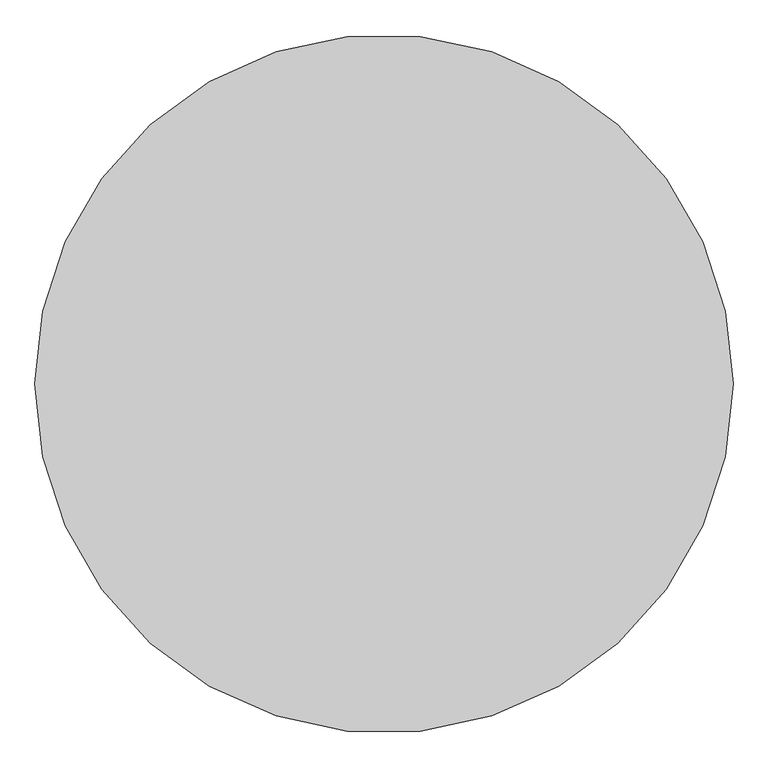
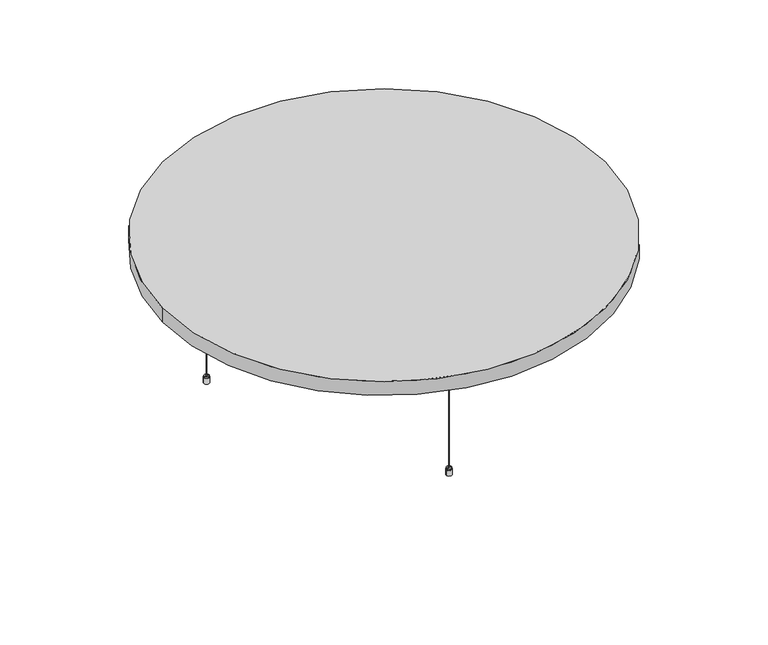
"""IFC4 building model written with IfcOpenShell, lengths in millimetres: proxy geometry, OWA Selecta : Selecta loop 1200."""

from ifc_helpers import new_model, si_unit, point, frame, frame_2d, origin, place, context, project, spatial, polyline, circle_curve, trimmed, segment, composite_curve, outline, extrude, source, transform, mapped, element, save
from ifc_brep_helpers import plane_surface, cylinder_surface, revolved_surface, advanced_brep


def specialty_equipment_8f9aa0d5(model_context):
    return source(origin(), model_context, "Body", "SolidModel", [
        advanced_brep(
        [(-433.5, -305.0, 0.0), (-441.2406175, -305.0, 0.0), (-425.7593825, -305.0, 0.0), (-441.2406175, -305.0, 15.0), (-425.7593825, -305.0, 15.0), (-440.3156175, -305.0, 15.0), (-426.6843825, -305.0, 15.0), (-440.3156175, -305.0, 19.0), (-426.6843825, -305.0, 19.0), (-435.5656175, -305.0, 19.0), (-431.4343825, -305.0, 19.0), (-435.5656175, -305.0, 22.546183), (-431.4343825, -305.0, 22.546183), (-433.5, -305.0, 22.546183)],
        [
            (0, 1),
            (1, 2, circle_curve(frame((-433.5, -305.0, 0.0), z_axis=(0.0, 0.0, -1.0), x_axis=(-1.0, 0.0, 0.0)), 7.7406175)),
            (2, 0),
            (2, 1, circle_curve(frame((-433.5, -305.0, 0.0), z_axis=(0.0, 0.0, -1.0), x_axis=(-1.0, 0.0, 0.0)), 7.7406175)),
            (1, 3),
            (3, 4, circle_curve(frame((-433.5, -305.0, 15.0), z_axis=(0.0, 0.0, -1.0), x_axis=(-1.0, 0.0, 0.0)), 7.7406175)),
            (4, 2),
            (4, 3, circle_curve(frame((-433.5, -305.0, 15.0), z_axis=(0.0, 0.0, -1.0), x_axis=(-1.0, 0.0, 0.0)), 7.7406175)),
            (3, 5),
            (5, 6, circle_curve(frame((-433.5, -305.0, 15.0), z_axis=(0.0, 0.0, -1.0), x_axis=(-1.0, 0.0, 0.0)), 6.8156175)),
            (6, 4),
            (6, 5, circle_curve(frame((-433.5, -305.0, 15.0), z_axis=(0.0, 0.0, -1.0), x_axis=(-1.0, 0.0, 0.0)), 6.8156175)),
            (5, 7),
            (7, 8, circle_curve(frame((-433.5, -305.0, 19.0), z_axis=(0.0, 0.0, -1.0), x_axis=(-1.0, 0.0, 0.0)), 6.8156175)),
            (8, 6),
            (8, 7, circle_curve(frame((-433.5, -305.0, 19.0), z_axis=(0.0, 0.0, -1.0), x_axis=(-1.0, 0.0, 0.0)), 6.8156175)),
            (7, 9),
            (9, 10, circle_curve(frame((-433.5, -305.0, 19.0), z_axis=(0.0, 0.0, -1.0), x_axis=(-1.0, 0.0, 0.0)), 2.0656175)),
            (10, 8),
            (10, 9, circle_curve(frame((-433.5, -305.0, 19.0), z_axis=(0.0, 0.0, -1.0), x_axis=(-1.0, 0.0, 0.0)), 2.0656175)),
            (9, 11),
            (11, 12, circle_curve(frame((-433.5, -305.0, 22.546183), z_axis=(0.0, 0.0, -1.0), x_axis=(-1.0, 0.0, 0.0)), 2.0656175)),
            (12, 10),
            (12, 11, circle_curve(frame((-433.5, -305.0, 22.546183), z_axis=(0.0, 0.0, -1.0), x_axis=(-1.0, 0.0, 0.0)), 2.0656175)),
            (11, 13),
            (13, 12),
        ],
        [
            plane_surface(frame((-433.5, -305.0, 0.0), z_axis=(0.0, 0.0, -1.0), x_axis=(-1.0, 0.0, 0.0))),
            cylinder_surface(frame((-433.5, -305.0, -10.0), z_axis=(0.0, 0.0, -1.0), x_axis=(-1.0, 0.0, 0.0)), 7.7406175),
            plane_surface(frame((-433.5, -305.0, 15.0), z_axis=(0.0, 0.0, 1.0), x_axis=(-1.0, 0.0, 0.0))),
            cylinder_surface(frame((-433.5, -305.0, -10.0), z_axis=(0.0, 0.0, -1.0), x_axis=(-1.0, 0.0, 0.0)), 6.8156175),
            plane_surface(frame((-433.5, -305.0, 19.0), z_axis=(0.0, 0.0, 1.0), x_axis=(-1.0, 0.0, 0.0))),
            cylinder_surface(frame((-433.5, -305.0, -10.0), z_axis=(0.0, 0.0, -1.0), x_axis=(-1.0, 0.0, 0.0)), 2.0656175),
            plane_surface(frame((-433.5, -305.0, 22.546183), z_axis=(0.0, 0.0, 1.0), x_axis=(-1.0, 0.0, 0.0))),
        ],
        [
            (0, [[1, 2, 3]]),
            (0, [[-3, 4, -1]]),
            (1, [[-2, 5, 6, 7]]),
            (1, [[-4, -7, 8, -5]]),
            (2, [[-6, 9, 10, 11]]),
            (2, [[-8, -11, 12, -9]]),
            (3, [[-10, 13, 14, 15]]),
            (3, [[-12, -15, 16, -13]]),
            (4, [[-14, 17, 18, 19]]),
            (4, [[-16, -19, 20, -17]]),
            (5, [[-18, 21, 22, 23]]),
            (5, [[-20, -23, 24, -21]]),
            (6, [[-22, 25, 26]]),
            (6, [[-24, -26, -25]]),
        ],
    ),
        advanced_brep(
        [(-431.2615389, -305.0, 428.8211737), (-435.7384611, -305.0, 428.8211737), (-435.8660547, -305.0, 432.8711737), (-431.1339453, -305.0, 432.8711737), (-438.3660547, -305.0, 432.8711737), (-428.6339453, -305.0, 432.8711737), (-438.3660547, -305.0, 458.1211737), (-428.6339453, -305.0, 458.1211737), (-449.3660547, -305.0, 458.1211737), (-417.6339453, -305.0, 458.1211737), (-449.3660547, -305.0, 460.0), (-417.6339453, -305.0, 460.0), (-433.5, -305.0, 460.0), (-433.5, -305.0, 428.8211737)],
        [
            (0, 1, circle_curve(frame((-433.5, -305.0, 428.8211737), z_axis=(0.0, 0.0, 1.0), x_axis=(-1.0, 0.0, 0.0)), 2.2384611)),
            (1, 2),
            (2, 3, circle_curve(frame((-433.5, -305.0, 432.8711737), z_axis=(0.0, 0.0, -1.0), x_axis=(-1.0, 0.0, 0.0)), 2.3660547)),
            (3, 0),
            (1, 0, circle_curve(frame((-433.5, -305.0, 428.8211737), z_axis=(0.0, 0.0, 1.0), x_axis=(-1.0, 0.0, 0.0)), 2.2384611)),
            (3, 2, circle_curve(frame((-433.5, -305.0, 432.8711737), z_axis=(0.0, 0.0, -1.0), x_axis=(-1.0, 0.0, 0.0)), 2.3660547)),
            (2, 4),
            (4, 5, circle_curve(frame((-433.5, -305.0, 432.8711737), z_axis=(0.0, 0.0, -1.0), x_axis=(-1.0, 0.0, 0.0)), 4.8660547)),
            (5, 3),
            (5, 4, circle_curve(frame((-433.5, -305.0, 432.8711737), z_axis=(0.0, 0.0, -1.0), x_axis=(-1.0, 0.0, 0.0)), 4.8660547)),
            (4, 6),
            (6, 7, circle_curve(frame((-433.5, -305.0, 458.1211737), z_axis=(0.0, 0.0, -1.0), x_axis=(-1.0, 0.0, 0.0)), 4.8660547)),
            (7, 5),
            (7, 6, circle_curve(frame((-433.5, -305.0, 458.1211737), z_axis=(0.0, 0.0, -1.0), x_axis=(-1.0, 0.0, 0.0)), 4.8660547)),
            (6, 8),
            (8, 9, circle_curve(frame((-433.5, -305.0, 458.1211737), z_axis=(0.0, 0.0, -1.0), x_axis=(-1.0, 0.0, 0.0)), 15.8660547)),
            (9, 7),
            (9, 8, circle_curve(frame((-433.5, -305.0, 458.1211737), z_axis=(0.0, 0.0, -1.0), x_axis=(-1.0, 0.0, 0.0)), 15.8660547)),
            (8, 10),
            (10, 11, circle_curve(frame((-433.5, -305.0, 460.0), z_axis=(0.0, 0.0, -1.0), x_axis=(-1.0, 0.0, 0.0)), 15.8660547)),
            (11, 9),
            (11, 10, circle_curve(frame((-433.5, -305.0, 460.0), z_axis=(0.0, 0.0, -1.0), x_axis=(-1.0, 0.0, 0.0)), 15.8660547)),
            (10, 12),
            (12, 11),
            (13, 1),
            (0, 13),
        ],
        [
            revolved_surface(polyline([(-435.8660547, -305.0, 432.8711737), (-435.7384611, -305.0, 428.8211737)]), (-433.5, -305.0, 461.8401096), (0.0, 0.0, -1.0)),
            plane_surface(frame((-433.5, -305.0, 432.8711737), z_axis=(0.0, 0.0, -1.0), x_axis=(-1.0, 0.0, 0.0))),
            cylinder_surface(frame((-433.5, -305.0, 461.8401096), z_axis=(0.0, 0.0, -1.0), x_axis=(-1.0, 0.0, 0.0)), 4.8660547),
            plane_surface(frame((-433.5, -305.0, 458.1211737), z_axis=(0.0, 0.0, -1.0), x_axis=(-1.0, 0.0, 0.0))),
            cylinder_surface(frame((-433.5, -305.0, 461.8401096), z_axis=(0.0, 0.0, -1.0), x_axis=(-1.0, 0.0, 0.0)), 15.8660547),
            plane_surface(frame((-433.5, -305.0, 460.0), z_axis=(0.0, 0.0, 1.0), x_axis=(-1.0, 0.0, 0.0))),
            plane_surface(frame((-433.5, -305.0, 428.8211737), z_axis=(0.0, 0.0, -1.0), x_axis=(-1.0, 0.0, 0.0))),
        ],
        [
            (0, [[1, 2, 3, 4]]),
            (0, [[5, -4, 6, -2]]),
            (1, [[-3, 7, 8, 9]]),
            (1, [[-6, -9, 10, -7]]),
            (2, [[-8, 11, 12, 13]]),
            (2, [[-10, -13, 14, -11]]),
            (3, [[-12, 15, 16, 17]]),
            (3, [[-14, -17, 18, -15]]),
            (4, [[-16, 19, 20, 21]]),
            (4, [[-18, -21, 22, -19]]),
            (5, [[-20, 23, 24]]),
            (5, [[-22, -24, -23]]),
            (6, [[25, -1, 26]]),
            (6, [[-26, -5, -25]]),
        ],
    ),
        extrude(outline(composite_curve([segment(trimmed(circle_curve(frame_2d((-433.5, -305.0)), 1.0), [point((-434.5, -305.0))], [point((-432.5, -305.0))], False, "CARTESIAN"), True, "CONTINUOUS"), segment(trimmed(circle_curve(frame_2d((-433.5, -305.0)), 1.0), [point((-432.5, -305.0))], [point((-434.5, -305.0))], False, "CARTESIAN"), True, "CONTINUOUS")], self_intersect=False)), frame((0.0, 0.0, 22.546183), z_axis=(0.0, 0.0, 1.0), x_axis=(1.0, 0.0, 0.0)), (0.0, 0.0, 1.0), 406.2749908),
        advanced_brep(
        [(-738.5, 305.0, 0.0), (-730.7593825, 305.0, 0.0), (-746.2406175, 305.0, 0.0), (-730.7593825, 305.0, 15.0), (-746.2406175, 305.0, 15.0), (-731.6843825, 305.0, 15.0), (-745.3156175, 305.0, 15.0), (-731.6843825, 305.0, 19.0), (-745.3156175, 305.0, 19.0), (-736.4343825, 305.0, 19.0), (-740.5656175, 305.0, 19.0), (-736.4343825, 305.0, 22.546183), (-740.5656175, 305.0, 22.546183), (-738.5, 305.0, 22.546183)],
        [
            (0, 1),
            (1, 2, circle_curve(frame((-738.5, 305.0, 0.0), z_axis=(0.0, 0.0, -1.0), x_axis=(-1.0, 0.0, 0.0)), 7.7406175)),
            (2, 0),
            (2, 1, circle_curve(frame((-738.5, 305.0, 0.0), z_axis=(0.0, 0.0, -1.0), x_axis=(-1.0, 0.0, 0.0)), 7.7406175)),
            (1, 3),
            (3, 4, circle_curve(frame((-738.5, 305.0, 15.0), z_axis=(0.0, 0.0, -1.0), x_axis=(-1.0, 0.0, 0.0)), 7.7406175)),
            (4, 2),
            (4, 3, circle_curve(frame((-738.5, 305.0, 15.0), z_axis=(0.0, 0.0, -1.0), x_axis=(-1.0, 0.0, 0.0)), 7.7406175)),
            (3, 5),
            (5, 6, circle_curve(frame((-738.5, 305.0, 15.0), z_axis=(0.0, 0.0, -1.0), x_axis=(-1.0, 0.0, 0.0)), 6.8156175)),
            (6, 4),
            (6, 5, circle_curve(frame((-738.5, 305.0, 15.0), z_axis=(0.0, 0.0, -1.0), x_axis=(-1.0, 0.0, 0.0)), 6.8156175)),
            (5, 7),
            (7, 8, circle_curve(frame((-738.5, 305.0, 19.0), z_axis=(0.0, 0.0, -1.0), x_axis=(-1.0, 0.0, 0.0)), 6.8156175)),
            (8, 6),
            (8, 7, circle_curve(frame((-738.5, 305.0, 19.0), z_axis=(0.0, 0.0, -1.0), x_axis=(-1.0, 0.0, 0.0)), 6.8156175)),
            (7, 9),
            (9, 10, circle_curve(frame((-738.5, 305.0, 19.0), z_axis=(0.0, 0.0, -1.0), x_axis=(-1.0, 0.0, 0.0)), 2.0656175)),
            (10, 8),
            (10, 9, circle_curve(frame((-738.5, 305.0, 19.0), z_axis=(0.0, 0.0, -1.0), x_axis=(-1.0, 0.0, 0.0)), 2.0656175)),
            (9, 11),
            (11, 12, circle_curve(frame((-738.5, 305.0, 22.546183), z_axis=(0.0, 0.0, -1.0), x_axis=(-1.0, 0.0, 0.0)), 2.0656175)),
            (12, 10),
            (12, 11, circle_curve(frame((-738.5, 305.0, 22.546183), z_axis=(0.0, 0.0, -1.0), x_axis=(-1.0, 0.0, 0.0)), 2.0656175)),
            (11, 13),
            (13, 12),
        ],
        [
            plane_surface(frame((-738.5, 305.0, 0.0), z_axis=(0.0, 0.0, -1.0), x_axis=(-1.0, 0.0, 0.0))),
            cylinder_surface(frame((-738.5, 305.0, -10.0), z_axis=(0.0, 0.0, -1.0), x_axis=(-1.0, 0.0, 0.0)), 7.7406175),
            plane_surface(frame((-738.5, 305.0, 15.0), z_axis=(0.0, 0.0, 1.0), x_axis=(-1.0, 0.0, 0.0))),
            cylinder_surface(frame((-738.5, 305.0, -10.0), z_axis=(0.0, 0.0, -1.0), x_axis=(-1.0, 0.0, 0.0)), 6.8156175),
            plane_surface(frame((-738.5, 305.0, 19.0), z_axis=(0.0, 0.0, 1.0), x_axis=(-1.0, 0.0, 0.0))),
            cylinder_surface(frame((-738.5, 305.0, -10.0), z_axis=(0.0, 0.0, -1.0), x_axis=(-1.0, 0.0, 0.0)), 2.0656175),
            plane_surface(frame((-738.5, 305.0, 22.546183), z_axis=(0.0, 0.0, 1.0), x_axis=(-1.0, 0.0, 0.0))),
        ],
        [
            (0, [[1, 2, 3]]),
            (0, [[-3, 4, -1]]),
            (1, [[5, 6, 7, -2]]),
            (1, [[-7, 8, -5, -4]]),
            (2, [[9, 10, 11, -6]]),
            (2, [[-11, 12, -9, -8]]),
            (3, [[13, 14, 15, -10]]),
            (3, [[-15, 16, -13, -12]]),
            (4, [[17, 18, 19, -14]]),
            (4, [[-19, 20, -17, -16]]),
            (5, [[21, 22, 23, -18]]),
            (5, [[-23, 24, -21, -20]]),
            (6, [[25, 26, -22]]),
            (6, [[-26, -25, -24]]),
        ],
    ),
        advanced_brep(
        [(-736.2615389, 305.0, 428.8211737), (-736.1339453, 305.0, 432.8711737), (-740.8660547, 305.0, 432.8711737), (-740.7384611, 305.0, 428.8211737), (-733.6339453, 305.0, 432.8711737), (-743.3660547, 305.0, 432.8711737), (-733.6339453, 305.0, 458.1211737), (-743.3660547, 305.0, 458.1211737), (-722.6339453, 305.0, 458.1211737), (-754.3660547, 305.0, 458.1211737), (-722.6339453, 305.0, 460.0), (-754.3660547, 305.0, 460.0), (-738.5, 305.0, 460.0), (-738.5, 305.0, 428.8211737)],
        [
            (0, 1),
            (1, 2, circle_curve(frame((-738.5, 305.0, 432.8711737), z_axis=(0.0, 0.0, -1.0), x_axis=(-1.0, 0.0, 0.0)), 2.3660547)),
            (2, 3),
            (3, 0, circle_curve(frame((-738.5, 305.0, 428.8211737), z_axis=(0.0, 0.0, 1.0), x_axis=(-1.0, 0.0, 0.0)), 2.2384611)),
            (2, 1, circle_curve(frame((-738.5, 305.0, 432.8711737), z_axis=(0.0, 0.0, -1.0), x_axis=(-1.0, 0.0, 0.0)), 2.3660547)),
            (0, 3, circle_curve(frame((-738.5, 305.0, 428.8211737), z_axis=(0.0, 0.0, 1.0), x_axis=(-1.0, 0.0, 0.0)), 2.2384611)),
            (1, 4),
            (4, 5, circle_curve(frame((-738.5, 305.0, 432.8711737), z_axis=(0.0, 0.0, -1.0), x_axis=(-1.0, 0.0, 0.0)), 4.8660547)),
            (5, 2),
            (5, 4, circle_curve(frame((-738.5, 305.0, 432.8711737), z_axis=(0.0, 0.0, -1.0), x_axis=(-1.0, 0.0, 0.0)), 4.8660547)),
            (4, 6),
            (6, 7, circle_curve(frame((-738.5, 305.0, 458.1211737), z_axis=(0.0, 0.0, -1.0), x_axis=(-1.0, 0.0, 0.0)), 4.8660547)),
            (7, 5),
            (7, 6, circle_curve(frame((-738.5, 305.0, 458.1211737), z_axis=(0.0, 0.0, -1.0), x_axis=(-1.0, 0.0, 0.0)), 4.8660547)),
            (6, 8),
            (8, 9, circle_curve(frame((-738.5, 305.0, 458.1211737), z_axis=(0.0, 0.0, -1.0), x_axis=(-1.0, 0.0, 0.0)), 15.8660547)),
            (9, 7),
            (9, 8, circle_curve(frame((-738.5, 305.0, 458.1211737), z_axis=(0.0, 0.0, -1.0), x_axis=(-1.0, 0.0, 0.0)), 15.8660547)),
            (8, 10),
            (10, 11, circle_curve(frame((-738.5, 305.0, 460.0), z_axis=(0.0, 0.0, -1.0), x_axis=(-1.0, 0.0, 0.0)), 15.8660547)),
            (11, 9),
            (11, 10, circle_curve(frame((-738.5, 305.0, 460.0), z_axis=(0.0, 0.0, -1.0), x_axis=(-1.0, 0.0, 0.0)), 15.8660547)),
            (10, 12),
            (12, 11),
            (13, 0),
            (3, 13),
        ],
        [
            revolved_surface(polyline([(-740.8660547, 305.0, 432.8711737), (-740.7384611, 305.0, 428.8211737)]), (-738.5, 305.0, 461.8401096), (0.0, 0.0, -1.0)),
            plane_surface(frame((-738.5, 305.0, 432.8711737), z_axis=(0.0, 0.0, -1.0), x_axis=(-1.0, 0.0, 0.0))),
            cylinder_surface(frame((-738.5, 305.0, 461.8401096), z_axis=(0.0, 0.0, -1.0), x_axis=(-1.0, 0.0, 0.0)), 4.8660547),
            plane_surface(frame((-738.5, 305.0, 458.1211737), z_axis=(0.0, 0.0, -1.0), x_axis=(-1.0, 0.0, 0.0))),
            cylinder_surface(frame((-738.5, 305.0, 461.8401096), z_axis=(0.0, 0.0, -1.0), x_axis=(-1.0, 0.0, 0.0)), 15.8660547),
            plane_surface(frame((-738.5, 305.0, 460.0), z_axis=(0.0, 0.0, 1.0), x_axis=(-1.0, 0.0, 0.0))),
            plane_surface(frame((-738.5, 305.0, 428.8211737), z_axis=(0.0, 0.0, -1.0), x_axis=(-1.0, 0.0, 0.0))),
        ],
        [
            (0, [[1, 2, 3, 4]]),
            (0, [[-3, 5, -1, 6]]),
            (1, [[7, 8, 9, -2]]),
            (1, [[-9, 10, -7, -5]]),
            (2, [[11, 12, 13, -8]]),
            (2, [[-13, 14, -11, -10]]),
            (3, [[15, 16, 17, -12]]),
            (3, [[-17, 18, -15, -14]]),
            (4, [[19, 20, 21, -16]]),
            (4, [[-21, 22, -19, -18]]),
            (5, [[23, 24, -20]]),
            (5, [[-24, -23, -22]]),
            (6, [[25, -4, 26]]),
            (6, [[-26, -6, -25]]),
        ],
    ),
        extrude(outline(composite_curve([segment(trimmed(circle_curve(frame_2d((-738.5, 305.0)), 1.0), [point((-739.5, 305.0))], [point((-737.5, 305.0))], False, "CARTESIAN"), True, "CONTINUOUS"), segment(trimmed(circle_curve(frame_2d((-738.5, 305.0)), 1.0), [point((-737.5, 305.0))], [point((-739.5, 305.0))], False, "CARTESIAN"), True, "CONTINUOUS")], self_intersect=False)), frame((0.0, 0.0, 22.546183), z_axis=(0.0, 0.0, 1.0), x_axis=(1.0, 0.0, 0.0)), (0.0, 0.0, 1.0), 406.2749908),
        advanced_brep(
        [(-128.5, 305.0, 0.0), (-136.2406175, 305.0, 0.0), (-120.7593825, 305.0, 0.0), (-136.2406175, 305.0, 15.0), (-120.7593825, 305.0, 15.0), (-135.3156175, 305.0, 15.0), (-121.6843825, 305.0, 15.0), (-135.3156175, 305.0, 19.0), (-121.6843825, 305.0, 19.0), (-130.5656175, 305.0, 19.0), (-126.4343825, 305.0, 19.0), (-130.5656175, 305.0, 22.546183), (-126.4343825, 305.0, 22.546183), (-128.5, 305.0, 22.546183)],
        [
            (0, 1),
            (1, 2, circle_curve(frame((-128.5, 305.0, 0.0), z_axis=(0.0, 0.0, -1.0), x_axis=(-1.0, 0.0, 0.0)), 7.7406175)),
            (2, 0),
            (2, 1, circle_curve(frame((-128.5, 305.0, 0.0), z_axis=(0.0, 0.0, -1.0), x_axis=(-1.0, 0.0, 0.0)), 7.7406175)),
            (1, 3),
            (3, 4, circle_curve(frame((-128.5, 305.0, 15.0), z_axis=(0.0, 0.0, -1.0), x_axis=(-1.0, 0.0, 0.0)), 7.7406175)),
            (4, 2),
            (4, 3, circle_curve(frame((-128.5, 305.0, 15.0), z_axis=(0.0, 0.0, -1.0), x_axis=(-1.0, 0.0, 0.0)), 7.7406175)),
            (3, 5),
            (5, 6, circle_curve(frame((-128.5, 305.0, 15.0), z_axis=(0.0, 0.0, -1.0), x_axis=(-1.0, 0.0, 0.0)), 6.8156175)),
            (6, 4),
            (6, 5, circle_curve(frame((-128.5, 305.0, 15.0), z_axis=(0.0, 0.0, -1.0), x_axis=(-1.0, 0.0, 0.0)), 6.8156175)),
            (5, 7),
            (7, 8, circle_curve(frame((-128.5, 305.0, 19.0), z_axis=(0.0, 0.0, -1.0), x_axis=(-1.0, 0.0, 0.0)), 6.8156175)),
            (8, 6),
            (8, 7, circle_curve(frame((-128.5, 305.0, 19.0), z_axis=(0.0, 0.0, -1.0), x_axis=(-1.0, 0.0, 0.0)), 6.8156175)),
            (7, 9),
            (9, 10, circle_curve(frame((-128.5, 305.0, 19.0), z_axis=(0.0, 0.0, -1.0), x_axis=(-1.0, 0.0, 0.0)), 2.0656175)),
            (10, 8),
            (10, 9, circle_curve(frame((-128.5, 305.0, 19.0), z_axis=(0.0, 0.0, -1.0), x_axis=(-1.0, 0.0, 0.0)), 2.0656175)),
            (9, 11),
            (11, 12, circle_curve(frame((-128.5, 305.0, 22.546183), z_axis=(0.0, 0.0, -1.0), x_axis=(-1.0, 0.0, 0.0)), 2.0656175)),
            (12, 10),
            (12, 11, circle_curve(frame((-128.5, 305.0, 22.546183), z_axis=(0.0, 0.0, -1.0), x_axis=(-1.0, 0.0, 0.0)), 2.0656175)),
            (11, 13),
            (13, 12),
        ],
        [
            plane_surface(frame((-128.5, 305.0, 0.0), z_axis=(0.0, 0.0, -1.0), x_axis=(-1.0, 0.0, 0.0))),
            cylinder_surface(frame((-128.5, 305.0, -10.0), z_axis=(0.0, 0.0, -1.0), x_axis=(-1.0, 0.0, 0.0)), 7.7406175),
            plane_surface(frame((-128.5, 305.0, 15.0), z_axis=(0.0, 0.0, 1.0), x_axis=(-1.0, 0.0, 0.0))),
            cylinder_surface(frame((-128.5, 305.0, -10.0), z_axis=(0.0, 0.0, -1.0), x_axis=(-1.0, 0.0, 0.0)), 6.8156175),
            plane_surface(frame((-128.5, 305.0, 19.0), z_axis=(0.0, 0.0, 1.0), x_axis=(-1.0, 0.0, 0.0))),
            cylinder_surface(frame((-128.5, 305.0, -10.0), z_axis=(0.0, 0.0, -1.0), x_axis=(-1.0, 0.0, 0.0)), 2.0656175),
            plane_surface(frame((-128.5, 305.0, 22.546183), z_axis=(0.0, 0.0, 1.0), x_axis=(-1.0, 0.0, 0.0))),
        ],
        [
            (0, [[1, 2, 3]]),
            (0, [[-3, 4, -1]]),
            (1, [[-2, 5, 6, 7]]),
            (1, [[-4, -7, 8, -5]]),
            (2, [[-6, 9, 10, 11]]),
            (2, [[-8, -11, 12, -9]]),
            (3, [[-10, 13, 14, 15]]),
            (3, [[-12, -15, 16, -13]]),
            (4, [[-14, 17, 18, 19]]),
            (4, [[-16, -19, 20, -17]]),
            (5, [[-18, 21, 22, 23]]),
            (5, [[-20, -23, 24, -21]]),
            (6, [[-22, 25, 26]]),
            (6, [[-24, -26, -25]]),
        ],
    ),
        advanced_brep(
        [(-126.2615389, 305.0, 428.8211737), (-130.7384611, 305.0, 428.8211737), (-130.8660547, 305.0, 432.8711737), (-126.1339453, 305.0, 432.8711737), (-133.3660547, 305.0, 432.8711737), (-123.6339453, 305.0, 432.8711737), (-133.3660547, 305.0, 458.1211737), (-123.6339453, 305.0, 458.1211737), (-144.3660547, 305.0, 458.1211737), (-112.6339453, 305.0, 458.1211737), (-144.3660547, 305.0, 460.0), (-112.6339453, 305.0, 460.0), (-128.5, 305.0, 460.0), (-128.5, 305.0, 428.8211737)],
        [
            (0, 1, circle_curve(frame((-128.5, 305.0, 428.8211737), z_axis=(0.0, 0.0, 1.0), x_axis=(-1.0, 0.0, 0.0)), 2.2384611)),
            (1, 2),
            (2, 3, circle_curve(frame((-128.5, 305.0, 432.8711737), z_axis=(0.0, 0.0, -1.0), x_axis=(-1.0, 0.0, 0.0)), 2.3660547)),
            (3, 0),
            (1, 0, circle_curve(frame((-128.5, 305.0, 428.8211737), z_axis=(0.0, 0.0, 1.0), x_axis=(-1.0, 0.0, 0.0)), 2.2384611)),
            (3, 2, circle_curve(frame((-128.5, 305.0, 432.8711737), z_axis=(0.0, 0.0, -1.0), x_axis=(-1.0, 0.0, 0.0)), 2.3660547)),
            (2, 4),
            (4, 5, circle_curve(frame((-128.5, 305.0, 432.8711737), z_axis=(0.0, 0.0, -1.0), x_axis=(-1.0, 0.0, 0.0)), 4.8660547)),
            (5, 3),
            (5, 4, circle_curve(frame((-128.5, 305.0, 432.8711737), z_axis=(0.0, 0.0, -1.0), x_axis=(-1.0, 0.0, 0.0)), 4.8660547)),
            (4, 6),
            (6, 7, circle_curve(frame((-128.5, 305.0, 458.1211737), z_axis=(0.0, 0.0, -1.0), x_axis=(-1.0, 0.0, 0.0)), 4.8660547)),
            (7, 5),
            (7, 6, circle_curve(frame((-128.5, 305.0, 458.1211737), z_axis=(0.0, 0.0, -1.0), x_axis=(-1.0, 0.0, 0.0)), 4.8660547)),
            (6, 8),
            (8, 9, circle_curve(frame((-128.5, 305.0, 458.1211737), z_axis=(0.0, 0.0, -1.0), x_axis=(-1.0, 0.0, 0.0)), 15.8660547)),
            (9, 7),
            (9, 8, circle_curve(frame((-128.5, 305.0, 458.1211737), z_axis=(0.0, 0.0, -1.0), x_axis=(-1.0, 0.0, 0.0)), 15.8660547)),
            (8, 10),
            (10, 11, circle_curve(frame((-128.5, 305.0, 460.0), z_axis=(0.0, 0.0, -1.0), x_axis=(-1.0, 0.0, 0.0)), 15.8660547)),
            (11, 9),
            (11, 10, circle_curve(frame((-128.5, 305.0, 460.0), z_axis=(0.0, 0.0, -1.0), x_axis=(-1.0, 0.0, 0.0)), 15.8660547)),
            (10, 12),
            (12, 11),
            (13, 1),
            (0, 13),
        ],
        [
            revolved_surface(polyline([(-130.8660547, 305.0, 432.8711737), (-130.7384611, 305.0, 428.8211737)]), (-128.5, 305.0, 461.8401096), (0.0, 0.0, -1.0)),
            plane_surface(frame((-128.5, 305.0, 432.8711737), z_axis=(0.0, 0.0, -1.0), x_axis=(-1.0, 0.0, 0.0))),
            cylinder_surface(frame((-128.5, 305.0, 461.8401096), z_axis=(0.0, 0.0, -1.0), x_axis=(-1.0, 0.0, 0.0)), 4.8660547),
            plane_surface(frame((-128.5, 305.0, 458.1211737), z_axis=(0.0, 0.0, -1.0), x_axis=(-1.0, 0.0, 0.0))),
            cylinder_surface(frame((-128.5, 305.0, 461.8401096), z_axis=(0.0, 0.0, -1.0), x_axis=(-1.0, 0.0, 0.0)), 15.8660547),
            plane_surface(frame((-128.5, 305.0, 460.0), z_axis=(0.0, 0.0, 1.0), x_axis=(-1.0, 0.0, 0.0))),
            plane_surface(frame((-128.5, 305.0, 428.8211737), z_axis=(0.0, 0.0, -1.0), x_axis=(-1.0, 0.0, 0.0))),
        ],
        [
            (0, [[1, 2, 3, 4]]),
            (0, [[5, -4, 6, -2]]),
            (1, [[-3, 7, 8, 9]]),
            (1, [[-6, -9, 10, -7]]),
            (2, [[-8, 11, 12, 13]]),
            (2, [[-10, -13, 14, -11]]),
            (3, [[-12, 15, 16, 17]]),
            (3, [[-14, -17, 18, -15]]),
            (4, [[-16, 19, 20, 21]]),
            (4, [[-18, -21, 22, -19]]),
            (5, [[-20, 23, 24]]),
            (5, [[-22, -24, -23]]),
            (6, [[25, -1, 26]]),
            (6, [[-26, -5, -25]]),
        ],
    ),
        extrude(outline(composite_curve([segment(trimmed(circle_curve(frame_2d((-128.5, 305.0)), 1.0), [point((-129.5, 305.0))], [point((-127.5, 305.0))], False, "CARTESIAN"), True, "CONTINUOUS"), segment(trimmed(circle_curve(frame_2d((-128.5, 305.0)), 1.0), [point((-127.5, 305.0))], [point((-129.5, 305.0))], False, "CARTESIAN"), True, "CONTINUOUS")], self_intersect=False)), frame((0.0, 0.0, 22.546183), z_axis=(0.0, 0.0, 1.0), x_axis=(1.0, 0.0, 0.0)), (0.0, 0.0, 1.0), 406.2749908),
        extrude(outline(composite_curve([segment(trimmed(circle_curve(frame_2d((-433.5, 0.0)), 600.0), [point((-1033.5, 0.0))], [point((166.5, 0.0))], False, "CARTESIAN"), True, "CONTINUOUS"), segment(trimmed(circle_curve(frame_2d((-433.5, 0.0)), 600.0), [point((166.5, 0.0))], [point((-1033.5, 0.0))], False, "CARTESIAN"), True, "CONTINUOUS")], self_intersect=False)), frame((0.0, 0.0, 460.0), z_axis=(0.0, 0.0, 1.0), x_axis=(1.0, 0.0, 0.0)), (0.0, 0.0, 1.0), 40.0),
    ])


if __name__ == "__main__":
    model = new_model("IFC4")
    model_context = context("Model", 3, world=origin())
    ifc_project = project(units=[si_unit("LENGTHUNIT", "METRE", prefix="MILLI")], contexts=[model_context])
    site = spatial("IfcSite", under=ifc_project)
    building = spatial("IfcBuilding", under=site)
    placement = place(None, origin())
    specialty_equipment_shape = specialty_equipment_8f9aa0d5(model_context)
    element("IfcBuildingElementProxy", 1, Name="OWA Selecta : Selecta loop 1200", ObjectType="OWA Selecta : Selecta loop 1200", at=placement, inside=building, context=model_context, shape_type="MappedRepresentation", body=[
        mapped(specialty_equipment_shape, transform((0.0, 0.0, 0.0), x_axis=(1.0, 0.0, 0.0), y_axis=(0.0, 1.0, 0.0), z_axis=(0.0, 0.0, 1.0))),
    ])
    save(model, "model.ifc")
